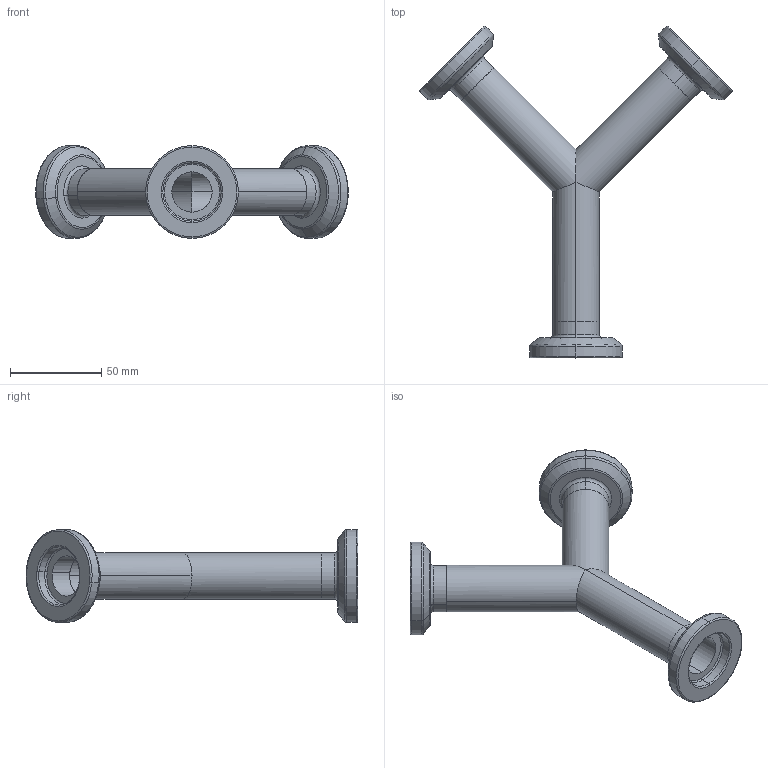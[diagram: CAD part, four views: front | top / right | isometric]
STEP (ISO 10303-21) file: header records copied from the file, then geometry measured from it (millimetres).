
FILE_DESCRIPTION (( 'STEP AP203' ), '1' );
FILE_NAME ('E28BI 1.0.STEP', '2021-10-27T12:28:01', ( '' ), ( '' ), 'SwSTEP 2.0', 'SolidWorks 2021', '' );
FILE_SCHEMA (( 'CONFIG_CONTROL_DESIGN' ));
Length unit declared in the file: inch
Products named in the file (3): V28WB1.0; E28BI 1.0; E15WI1.0
Assembly tree (4 placements, depth 2):
  E28BI 1.0
    V28WB1.0
    E15WI1.0  x3
Bounding box: 171.05 x 181.57 x 50.8 mm (x, y, z)
Volume: 71603.4 mm3; surface area: 52405.6 mm2
Topology: 4 solids, 4 shells, 93 faces, 192 edges, 112 vertices
Faces by surface type: cylinder 36, torus 36, plane 15, cone 6
Entity records: 1503 total; most frequent: DIRECTION 226, CARTESIAN_POINT 224, ORIENTED_EDGE 176, AXIS2_PLACEMENT_3D 102, EDGE_CURVE 88, CIRCLE 54, VERTEX_POINT 52, EDGE_LOOP 48
